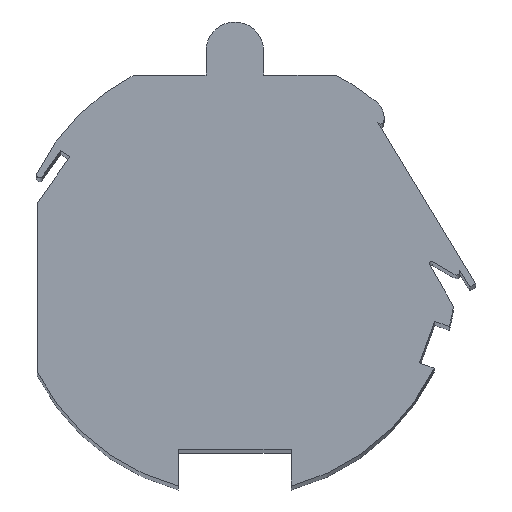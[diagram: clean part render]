
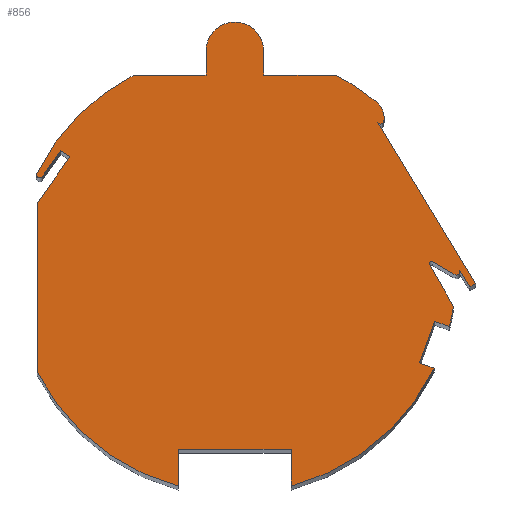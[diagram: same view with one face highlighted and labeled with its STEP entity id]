
A CAD part, top view. The second image highlights one B-rep face of the part: STEP entity #856.
In plain terms, the highlighted planar face has unit normal (0, 0, 1).
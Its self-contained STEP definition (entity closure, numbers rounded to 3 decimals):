
#16=CARTESIAN_POINT('',(0.,100.,0.));
#17=DIRECTION('',(0.,0.,1.));
#18=DIRECTION('',(1.,0.,0.));
#19=AXIS2_PLACEMENT_3D('',#16,#17,#18);
#25=DIRECTION('',(0.,1.,0.));
#26=VECTOR('',#25,10.951);
#27=CARTESIAN_POINT('',(13.,89.049,0.));
#28=LINE('',#27,#26);
#32=DIRECTION('',(-1.,0.,0.));
#33=VECTOR('',#32,32.5);
#34=CARTESIAN_POINT('',(45.5,89.049,0.));
#35=LINE('',#34,#33);
#39=CARTESIAN_POINT('',(0.,0.,0.));
#40=DIRECTION('',(0.,0.,1.));
#41=DIRECTION('',(0.643,0.766,0.));
#42=AXIS2_PLACEMENT_3D('',#39,#40,#41);
#47=CARTESIAN_POINT('',(58.494,69.71,0.));
#48=DIRECTION('',(0.,0.,1.));
#49=DIRECTION('',(0.985,-0.174,0.));
#50=AXIS2_PLACEMENT_3D('',#47,#48,#49);
#55=CARTESIAN_POINT('',(65.88,68.408,0.));
#56=DIRECTION('',(0.,0.,1.));
#57=DIRECTION('',(-0.855,-0.519,0.));
#58=AXIS2_PLACEMENT_3D('',#55,#56,#57);
#63=DIRECTION('',(-0.519,0.855,0.));
#64=VECTOR('',#63,85.168);
#65=CARTESIAN_POINT('',(108.766,-5.19,0.));
#66=LINE('',#65,#64);
#70=DIRECTION('',(0.866,0.5,0.));
#71=VECTOR('',#70,3.001);
#72=CARTESIAN_POINT('',(106.167,-6.69,0.));
#73=LINE('',#72,#71);
#77=DIRECTION('',(0.519,-0.855,0.));
#78=VECTOR('',#77,8.853);
#79=CARTESIAN_POINT('',(101.576,0.88,0.));
#80=LINE('',#79,#78);
#84=CARTESIAN_POINT('',(100.25,0.178,0.));
#85=DIRECTION('',(0.,0.,1.));
#86=DIRECTION('',(-0.5,-0.866,0.));
#87=AXIS2_PLACEMENT_3D('',#84,#85,#86);
#92=DIRECTION('',(0.866,-0.5,0.));
#93=VECTOR('',#92,11.72);
#94=CARTESIAN_POINT('',(89.35,4.739,0.));
#95=LINE('',#94,#93);
#99=CARTESIAN_POINT('',(88.85,3.873,0.));
#100=DIRECTION('',(0.,0.,-1.));
#101=DIRECTION('',(-0.866,-0.5,0.));
#102=AXIS2_PLACEMENT_3D('',#99,#100,#101);
#107=DIRECTION('',(-0.5,0.866,0.));
#108=VECTOR('',#107,21.653);
#109=CARTESIAN_POINT('',(98.81,-15.379,0.));
#110=LINE('',#109,#108);
#114=CARTESIAN_POINT('',(0.,0.,0.));
#115=DIRECTION('',(0.,0.,1.));
#116=DIRECTION('',(0.969,-0.246,0.));
#117=AXIS2_PLACEMENT_3D('',#114,#115,#116);
#122=DIRECTION('',(0.94,-0.342,0.));
#123=VECTOR('',#122,7.);
#124=CARTESIAN_POINT('',(90.341,-22.24,0.));
#125=LINE('',#124,#123);
#129=DIRECTION('',(0.342,0.94,0.));
#130=VECTOR('',#129,20.);
#131=CARTESIAN_POINT('',(83.5,-41.033,0.));
#132=LINE('',#131,#130);
#136=DIRECTION('',(-0.94,0.342,0.));
#137=VECTOR('',#136,7.);
#138=CARTESIAN_POINT('',(90.078,-43.428,0.));
#139=LINE('',#138,#137);
#143=CARTESIAN_POINT('',(0.,0.,0.));
#144=DIRECTION('',(0.,0.,1.));
#145=DIRECTION('',(0.255,-0.967,0.));
#146=AXIS2_PLACEMENT_3D('',#143,#144,#145);
#151=DIRECTION('',(0.,-1.,0.));
#152=VECTOR('',#151,16.694);
#153=CARTESIAN_POINT('',(25.5,-80.,0.));
#154=LINE('',#153,#152);
#158=DIRECTION('',(1.,0.,0.));
#159=VECTOR('',#158,51.);
#160=CARTESIAN_POINT('',(-25.5,-80.,0.));
#161=LINE('',#160,#159);
#165=DIRECTION('',(0.,1.,0.));
#166=VECTOR('',#165,16.694);
#167=CARTESIAN_POINT('',(-25.5,-96.694,0.));
#168=LINE('',#167,#166);
#172=CARTESIAN_POINT('',(0.,0.,0.));
#173=DIRECTION('',(0.,0.,1.));
#174=DIRECTION('',(-0.893,-0.449,0.));
#175=AXIS2_PLACEMENT_3D('',#172,#173,#174);
#180=DIRECTION('',(0.,-1.,0.));
#181=VECTOR('',#180,75.919);
#182=CARTESIAN_POINT('',(-89.337,30.987,0.));
#183=LINE('',#182,#181);
#187=DIRECTION('',(-0.574,-0.819,0.));
#188=VECTOR('',#187,25.859);
#189=CARTESIAN_POINT('',(-74.505,52.169,0.));
#190=LINE('',#189,#188);
#194=DIRECTION('',(0.819,-0.574,0.));
#195=VECTOR('',#194,5.);
#196=CARTESIAN_POINT('',(-78.601,55.037,0.));
#197=LINE('',#196,#195);
#201=DIRECTION('',(0.574,0.819,0.));
#202=VECTOR('',#201,14.209);
#203=CARTESIAN_POINT('',(-86.751,43.397,0.));
#204=LINE('',#203,#202);
#208=CARTESIAN_POINT('',(-88.092,44.068,0.));
#209=DIRECTION('',(0.,0.,1.));
#210=DIRECTION('',(-0.894,0.447,0.));
#211=AXIS2_PLACEMENT_3D('',#208,#209,#210);
#216=CARTESIAN_POINT('',(0.,0.,0.));
#217=DIRECTION('',(0.,0.,1.));
#218=DIRECTION('',(-0.455,0.89,0.));
#219=AXIS2_PLACEMENT_3D('',#216,#217,#218);
#224=DIRECTION('',(-1.,0.,0.));
#225=VECTOR('',#224,32.5);
#226=CARTESIAN_POINT('',(-13.,89.049,0.));
#227=LINE('',#226,#225);
#231=DIRECTION('',(0.,-1.,0.));
#232=VECTOR('',#231,10.951);
#233=CARTESIAN_POINT('',(-13.,100.,0.));
#234=LINE('',#233,#232);
#669=CARTESIAN_POINT('',(13.,100.,0.));
#670=CARTESIAN_POINT('',(-13.,100.,0.));
#671=VERTEX_POINT('',#669);
#672=VERTEX_POINT('',#670);
#673=CARTESIAN_POINT('',(-13.,89.049,0.));
#674=VERTEX_POINT('',#673);
#675=CARTESIAN_POINT('',(-45.5,89.049,0.));
#676=VERTEX_POINT('',#675);
#677=CARTESIAN_POINT('',(-89.434,44.739,0.));
#678=VERTEX_POINT('',#677);
#679=CARTESIAN_POINT('',(-86.751,43.397,0.));
#680=VERTEX_POINT('',#679);
#681=CARTESIAN_POINT('',(-78.601,55.037,0.));
#682=VERTEX_POINT('',#681);
#683=CARTESIAN_POINT('',(-74.505,52.169,0.));
#684=VERTEX_POINT('',#683);
#685=CARTESIAN_POINT('',(-89.337,30.987,0.));
#686=VERTEX_POINT('',#685);
#687=CARTESIAN_POINT('',(-89.337,-44.933,0.));
#688=VERTEX_POINT('',#687);
#689=CARTESIAN_POINT('',(-25.5,-96.694,0.));
#690=VERTEX_POINT('',#689);
#691=CARTESIAN_POINT('',(-25.5,-80.,0.));
#692=VERTEX_POINT('',#691);
#693=CARTESIAN_POINT('',(25.5,-80.,0.));
#694=VERTEX_POINT('',#693);
#695=CARTESIAN_POINT('',(25.5,-96.694,0.));
#696=VERTEX_POINT('',#695);
#697=CARTESIAN_POINT('',(90.078,-43.428,0.));
#698=VERTEX_POINT('',#697);
#699=CARTESIAN_POINT('',(83.5,-41.033,0.));
#700=VERTEX_POINT('',#699);
#701=CARTESIAN_POINT('',(90.341,-22.24,0.));
#702=VERTEX_POINT('',#701);
#703=CARTESIAN_POINT('',(96.918,-24.634,0.));
#704=VERTEX_POINT('',#703);
#705=CARTESIAN_POINT('',(98.81,-15.379,0.));
#706=VERTEX_POINT('',#705);
#707=CARTESIAN_POINT('',(87.984,3.373,0.));
#708=VERTEX_POINT('',#707);
#709=CARTESIAN_POINT('',(89.35,4.739,0.));
#710=VERTEX_POINT('',#709);
#711=CARTESIAN_POINT('',(99.5,-1.121,0.));
#712=VERTEX_POINT('',#711);
#713=CARTESIAN_POINT('',(101.576,0.88,0.));
#714=VERTEX_POINT('',#713);
#715=CARTESIAN_POINT('',(106.167,-6.69,0.));
#716=VERTEX_POINT('',#715);
#717=CARTESIAN_POINT('',(108.766,-5.19,0.));
#718=VERTEX_POINT('',#717);
#719=CARTESIAN_POINT('',(64.597,67.63,0.));
#720=VERTEX_POINT('',#719);
#721=CARTESIAN_POINT('',(67.357,68.147,0.));
#722=VERTEX_POINT('',#721);
#723=CARTESIAN_POINT('',(64.279,76.604,0.));
#724=VERTEX_POINT('',#723);
#725=CARTESIAN_POINT('',(45.5,89.049,0.));
#726=VERTEX_POINT('',#725);
#727=CARTESIAN_POINT('',(13.,89.049,0.));
#728=VERTEX_POINT('',#727);
#789=CARTESIAN_POINT('',(0.,0.,0.));
#790=DIRECTION('',(0.,0.,1.));
#791=DIRECTION('',(1.,0.,0.));
#792=AXIS2_PLACEMENT_3D('',#789,#790,#791);
#793=PLANE('',#792);
#795=ORIENTED_EDGE('',*,*,#794,.F.);
#797=ORIENTED_EDGE('',*,*,#796,.F.);
#799=ORIENTED_EDGE('',*,*,#798,.F.);
#801=ORIENTED_EDGE('',*,*,#800,.F.);
#803=ORIENTED_EDGE('',*,*,#802,.F.);
#805=ORIENTED_EDGE('',*,*,#804,.F.);
#807=ORIENTED_EDGE('',*,*,#806,.F.);
#809=ORIENTED_EDGE('',*,*,#808,.F.);
#811=ORIENTED_EDGE('',*,*,#810,.F.);
#813=ORIENTED_EDGE('',*,*,#812,.F.);
#815=ORIENTED_EDGE('',*,*,#814,.F.);
#817=ORIENTED_EDGE('',*,*,#816,.F.);
#819=ORIENTED_EDGE('',*,*,#818,.F.);
#821=ORIENTED_EDGE('',*,*,#820,.F.);
#823=ORIENTED_EDGE('',*,*,#822,.F.);
#825=ORIENTED_EDGE('',*,*,#824,.F.);
#827=ORIENTED_EDGE('',*,*,#826,.F.);
#829=ORIENTED_EDGE('',*,*,#828,.F.);
#831=ORIENTED_EDGE('',*,*,#830,.F.);
#833=ORIENTED_EDGE('',*,*,#832,.F.);
#835=ORIENTED_EDGE('',*,*,#834,.F.);
#837=ORIENTED_EDGE('',*,*,#836,.F.);
#839=ORIENTED_EDGE('',*,*,#838,.F.);
#841=ORIENTED_EDGE('',*,*,#840,.F.);
#843=ORIENTED_EDGE('',*,*,#842,.F.);
#845=ORIENTED_EDGE('',*,*,#844,.F.);
#847=ORIENTED_EDGE('',*,*,#846,.F.);
#849=ORIENTED_EDGE('',*,*,#848,.F.);
#851=ORIENTED_EDGE('',*,*,#850,.F.);
#853=ORIENTED_EDGE('',*,*,#852,.F.);
#854=EDGE_LOOP('',(#795,#797,#799,#801,#803,#805,#807,#809,#811,#813,#815,#817,
#819,#821,#823,#825,#827,#829,#831,#833,#835,#837,#839,#841,#843,#845,#847,#849,
#851,#853));
#855=FACE_OUTER_BOUND('',#854,.F.);
#20=CIRCLE('',#19,13.);
#43=CIRCLE('',#42,100.);
#51=CIRCLE('',#50,9.);
#59=CIRCLE('',#58,1.5);
#88=CIRCLE('',#87,1.5);
#103=CIRCLE('',#102,1.);
#118=CIRCLE('',#117,100.);
#147=CIRCLE('',#146,100.);
#176=CIRCLE('',#175,100.);
#212=CIRCLE('',#211,1.5);
#220=CIRCLE('',#219,100.);
#794=EDGE_CURVE('',#671,#672,#20,.T.);
#796=EDGE_CURVE('',#728,#671,#28,.T.);
#798=EDGE_CURVE('',#726,#728,#35,.T.);
#800=EDGE_CURVE('',#724,#726,#43,.T.);
#802=EDGE_CURVE('',#722,#724,#51,.T.);
#804=EDGE_CURVE('',#720,#722,#59,.T.);
#806=EDGE_CURVE('',#718,#720,#66,.T.);
#808=EDGE_CURVE('',#716,#718,#73,.T.);
#810=EDGE_CURVE('',#714,#716,#80,.T.);
#812=EDGE_CURVE('',#712,#714,#88,.T.);
#814=EDGE_CURVE('',#710,#712,#95,.T.);
#816=EDGE_CURVE('',#708,#710,#103,.T.);
#818=EDGE_CURVE('',#706,#708,#110,.T.);
#820=EDGE_CURVE('',#704,#706,#118,.T.);
#822=EDGE_CURVE('',#702,#704,#125,.T.);
#824=EDGE_CURVE('',#700,#702,#132,.T.);
#826=EDGE_CURVE('',#698,#700,#139,.T.);
#828=EDGE_CURVE('',#696,#698,#147,.T.);
#830=EDGE_CURVE('',#694,#696,#154,.T.);
#832=EDGE_CURVE('',#692,#694,#161,.T.);
#834=EDGE_CURVE('',#690,#692,#168,.T.);
#836=EDGE_CURVE('',#688,#690,#176,.T.);
#838=EDGE_CURVE('',#686,#688,#183,.T.);
#840=EDGE_CURVE('',#684,#686,#190,.T.);
#842=EDGE_CURVE('',#682,#684,#197,.T.);
#844=EDGE_CURVE('',#680,#682,#204,.T.);
#846=EDGE_CURVE('',#678,#680,#212,.T.);
#848=EDGE_CURVE('',#676,#678,#220,.T.);
#850=EDGE_CURVE('',#674,#676,#227,.T.);
#852=EDGE_CURVE('',#672,#674,#234,.T.);
#856=ADVANCED_FACE('',(#855),#793,.T.);
